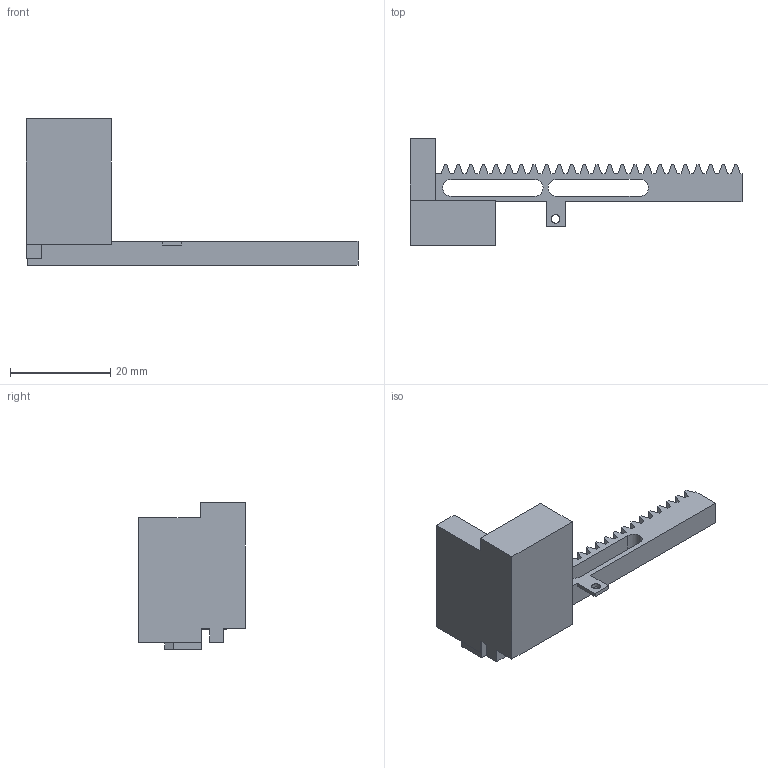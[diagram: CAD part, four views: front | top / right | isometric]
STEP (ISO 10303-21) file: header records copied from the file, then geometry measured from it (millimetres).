
FILE_DESCRIPTION(('Open CASCADE Model'),'2;1');
FILE_NAME('Open CASCADE Shape Model','2026-11-24T20:33:36',('Author'),( 'Open CASCADE'),'Open CASCADE STEP processor 7.8','Open CASCADE 7.8' ,'Unknown');
FILE_SCHEMA(('AUTOMOTIVE_DESIGN { 1 0 10303 214 1 1 1 1 }'));
Length unit declared in the file: millimetre
Products named in the file (1): Open CASCADE STEP translator 7.8 8
Bounding box: 66.12 x 21.3 x 29.15 mm (x, y, z)
Volume: 5410.2 mm3; surface area: 4301.1 mm2
Topology: 1 solids, 1 shells, 136 faces, 401 edges, 267 vertices
Faces by surface type: plane 131, cylinder 5
Full cylindrical faces by diameter (mm): 1.7 x1
Entity records: 9709 total; most frequent: CARTESIAN_POINT 1661, DIRECTION 1478, LINE 1183, VECTOR 1183, ORIENTED_EDGE 802, PCURVE 802, DEFINITIONAL_REPRESENTATION 802, EDGE_CURVE 401
